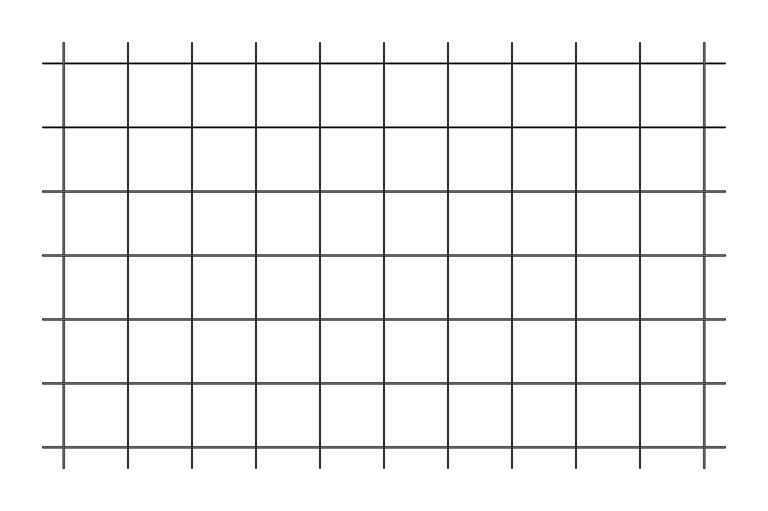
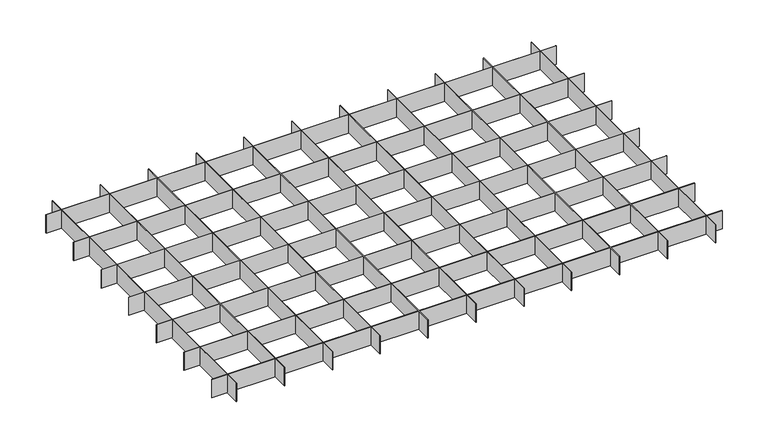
"""IFC4 building model written with IfcOpenShell, lengths in millimetres: proxy geometry, durlum_QUADRA_panel : durlum_QUADRA_corner_cut."""

from ifc_helpers import new_model, si_unit, origin, origin_with_axes, place, context, project, spatial, polyline, outline, extrude, source, transform, mapped, element, save


def generic_models_d4018781(model_context):
    return source(origin(), model_context, "Body", "SweptSolid", [
        extrude(outline(polyline([(299.6, 249.5), (300.4, 249.5), (300.4, -249.5), (299.6, -249.5), (299.6, 249.5)])), origin_with_axes(), (0.0, 0.0, 1.0), 30.0),
        extrude(outline(polyline([(224.6, 249.5), (225.4, 249.5), (225.4, -249.5), (224.6, -249.5), (224.6, 249.5)])), origin_with_axes(), (0.0, 0.0, 1.0), 30.0),
        extrude(outline(polyline([(149.6, 249.5), (150.4, 249.5), (150.4, -249.5), (149.6, -249.5), (149.6, 249.5)])), origin_with_axes(), (0.0, 0.0, 1.0), 30.0),
        extrude(outline(polyline([(74.6, 249.5), (75.4, 249.5), (75.4, -249.5), (74.6, -249.5), (74.6, 249.5)])), origin_with_axes(), (0.0, 0.0, 1.0), 30.0),
        extrude(outline(polyline([(-0.4, 249.5), (0.4, 249.5), (0.4, -249.5), (-0.4, -249.5), (-0.4, 249.5)])), origin_with_axes(), (0.0, 0.0, 1.0), 30.0),
        extrude(outline(polyline([(-75.4, 249.5), (-74.6, 249.5), (-74.6, -249.5), (-75.4, -249.5), (-75.4, 249.5)])), origin_with_axes(), (0.0, 0.0, 1.0), 30.0),
        extrude(outline(polyline([(-150.4, 249.5), (-149.6, 249.5), (-149.6, -249.5), (-150.4, -249.5), (-150.4, 249.5)])), origin_with_axes(), (0.0, 0.0, 1.0), 30.0),
        extrude(outline(polyline([(-225.4, 249.5), (-224.6, 249.5), (-224.6, -249.5), (-225.4, -249.5), (-225.4, 249.5)])), origin_with_axes(), (0.0, 0.0, 1.0), 30.0),
        extrude(outline(polyline([(-300.4, 249.5), (-299.6, 249.5), (-299.6, -249.5), (-300.4, -249.5), (-300.4, 249.5)])), origin_with_axes(), (0.0, 0.0, 1.0), 30.0),
        extrude(outline(polyline([(399.75, -149.6), (399.75, -150.4), (-399.75, -150.4), (-399.75, -149.6), (399.75, -149.6)])), origin_with_axes(), (0.0, 0.0, 1.0), 30.0),
        extrude(outline(polyline([(399.75, -74.6), (399.75, -75.4), (-399.75, -75.4), (-399.75, -74.6), (399.75, -74.6)])), origin_with_axes(), (0.0, 0.0, 1.0), 30.0),
        extrude(outline(polyline([(399.75, 0.4), (399.75, -0.4), (-399.75, -0.4), (-399.75, 0.4), (399.75, 0.4)])), origin_with_axes(), (0.0, 0.0, 1.0), 30.0),
        extrude(outline(polyline([(399.75, 75.4), (399.75, 74.6), (-399.75, 74.6), (-399.75, 75.4), (399.75, 75.4)])), origin_with_axes(), (0.0, 0.0, 1.0), 30.0),
        extrude(outline(polyline([(399.75, 150.4), (399.75, 149.6), (-399.75, 149.6), (-399.75, 150.4), (399.75, 150.4)])), origin_with_axes(), (0.0, 0.0, 1.0), 30.0),
        extrude(outline(polyline([(374.6, 249.5), (375.4, 249.5), (375.4, -249.5), (374.6, -249.5), (374.6, 249.5)])), origin_with_axes(), (0.0, 0.0, 1.0), 30.0),
        extrude(outline(polyline([(-375.4, 249.5), (-374.6, 249.5), (-374.6, -249.5), (-375.4, -249.5), (-375.4, 249.5)])), origin_with_axes(), (0.0, 0.0, 1.0), 30.0),
        extrude(outline(polyline([(399.75, -224.6), (399.75, -225.4), (-399.75, -225.4), (-399.75, -224.6), (399.75, -224.6)])), origin_with_axes(), (0.0, 0.0, 1.0), 30.0),
        extrude(outline(polyline([(399.75, 225.4), (399.75, 224.6), (-399.75, 224.6), (-399.75, 225.4), (399.75, 225.4)])), origin_with_axes(), (0.0, 0.0, 1.0), 30.0),
    ])


if __name__ == "__main__":
    model = new_model("IFC4")
    model_context = context("Model", 3, world=origin())
    ifc_project = project(units=[si_unit("LENGTHUNIT", "METRE", prefix="MILLI")], contexts=[model_context])
    site = spatial("IfcSite", under=ifc_project)
    building = spatial("IfcBuilding", under=site)
    placement = place(None, origin())
    generic_models_shape = generic_models_d4018781(model_context)
    element("IfcBuildingElementProxy", 1, Name="durlum_QUADRA_panel : durlum_QUADRA_corner_cut", ObjectType="durlum_QUADRA_panel : durlum_QUADRA_corner_cut", at=placement, inside=building, context=model_context, shape_type="MappedRepresentation", body=[
        mapped(generic_models_shape, transform((0.0, 0.0, 0.0), x_axis=(1.0, 0.0, 0.0), y_axis=(0.0, 1.0, 0.0), z_axis=(0.0, 0.0, 1.0))),
    ])
    save(model, "model.ifc")
